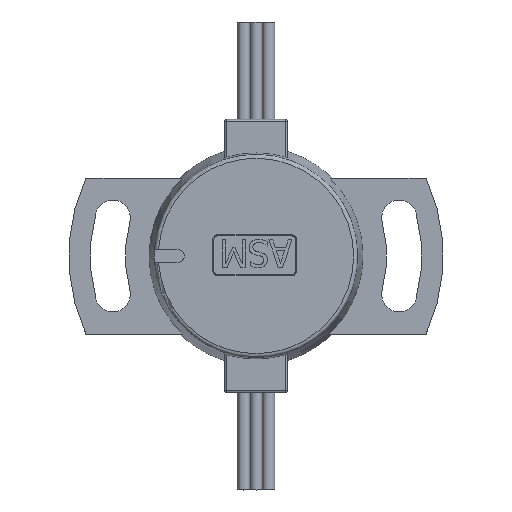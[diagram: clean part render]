
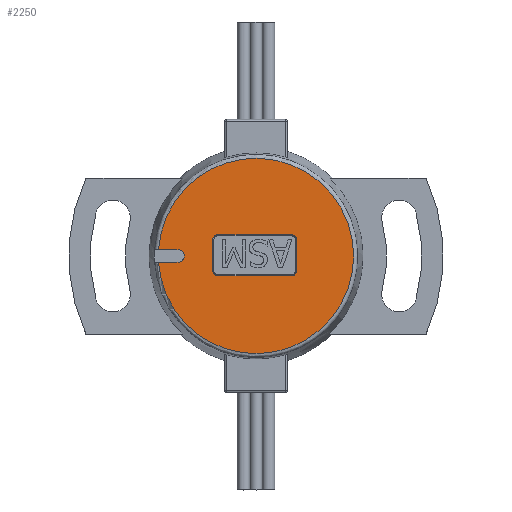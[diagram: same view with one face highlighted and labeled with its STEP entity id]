
A CAD part, top view. The second image highlights one B-rep face of the part: STEP entity #2250.
In plain terms, the highlighted planar face has unit normal (0, 0, 1).
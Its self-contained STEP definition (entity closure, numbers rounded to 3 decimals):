
#1507=CARTESIAN_POINT('',(4.559,2.722,6.));
#1508=VERTEX_POINT('',#1507);
#1515=CARTESIAN_POINT('',(-4.895,2.722,6.));
#1516=VERTEX_POINT('',#1515);
#1517=CARTESIAN_POINT('',(-4.895,2.722,6.));
#1518=DIRECTION('',(1.0,0.0,0.0));
#1519=VECTOR('',#1518,9.453);
#1520=LINE('',#1517,#1519);
#1521=EDGE_CURVE('',#1516,#1508,#1520,.T.);
#1547=CARTESIAN_POINT('',(-5.531,2.086,6.));
#1548=VERTEX_POINT('',#1547);
#1549=CARTESIAN_POINT('',(-4.895,2.086,6.));
#1550=DIRECTION('',(0.0,0.0,-1.0));
#1551=DIRECTION('',(0.,-1.0,0.0));
#1552=AXIS2_PLACEMENT_3D('',#1549,#1550,#1551);
#1553=CIRCLE('',#1552,0.636);
#1554=EDGE_CURVE('',#1548,#1516,#1553,.T.);
#1579=CARTESIAN_POINT('',(-5.531,-1.892,6.));
#1580=VERTEX_POINT('',#1579);
#1581=CARTESIAN_POINT('',(-5.531,-1.892,6.));
#1582=DIRECTION('',(0.0,1.0,0.0));
#1583=VECTOR('',#1582,3.978);
#1584=LINE('',#1581,#1583);
#1585=EDGE_CURVE('',#1580,#1548,#1584,.T.);
#1611=CARTESIAN_POINT('',(-4.895,-2.528,6.));
#1612=VERTEX_POINT('',#1611);
#1613=CARTESIAN_POINT('',(-4.895,-1.892,6.));
#1614=DIRECTION('',(0.0,0.0,-1.0));
#1615=DIRECTION('',(1.0,0.,0.0));
#1616=AXIS2_PLACEMENT_3D('',#1613,#1614,#1615);
#1617=CIRCLE('',#1616,0.636);
#1618=EDGE_CURVE('',#1612,#1580,#1617,.T.);
#1643=CARTESIAN_POINT('',(4.559,-2.528,6.));
#1644=VERTEX_POINT('',#1643);
#1645=CARTESIAN_POINT('',(4.559,-2.528,6.));
#1646=DIRECTION('',(-1.0,0.0,0.0));
#1647=VECTOR('',#1646,9.453);
#1648=LINE('',#1645,#1647);
#1649=EDGE_CURVE('',#1644,#1612,#1648,.T.);
#1675=CARTESIAN_POINT('',(5.194,-1.892,6.));
#1676=VERTEX_POINT('',#1675);
#1677=CARTESIAN_POINT('',(4.559,-1.892,6.));
#1678=DIRECTION('',(0.0,0.0,-1.0));
#1679=DIRECTION('',(0.,1.0,0.0));
#1680=AXIS2_PLACEMENT_3D('',#1677,#1678,#1679);
#1681=CIRCLE('',#1680,0.636);
#1682=EDGE_CURVE('',#1676,#1644,#1681,.T.);
#1707=CARTESIAN_POINT('',(5.194,2.086,6.));
#1708=VERTEX_POINT('',#1707);
#1709=CARTESIAN_POINT('',(5.194,2.086,6.));
#1710=DIRECTION('',(0.0,-1.0,0.0));
#1711=VECTOR('',#1710,3.978);
#1712=LINE('',#1709,#1711);
#1713=EDGE_CURVE('',#1708,#1676,#1712,.T.);
#1737=CARTESIAN_POINT('',(4.559,2.086,6.));
#1738=DIRECTION('',(0.0,0.0,-1.0));
#1739=DIRECTION('',(-1.0,0.,0.0));
#1740=AXIS2_PLACEMENT_3D('',#1737,#1738,#1739);
#1741=CIRCLE('',#1740,0.636);
#1742=EDGE_CURVE('',#1508,#1708,#1741,.T.);
#2199=CARTESIAN_POINT('',(0.,0.,6.));
#2200=DIRECTION('',(0.0,0.0,1.0));
#2201=DIRECTION('',(1.0,0.0,0.0));
#2202=AXIS2_PLACEMENT_3D('',#2199,#2200,#2201);
#2203=PLANE('',#2202);
#2204=CARTESIAN_POINT('',(-12.497,0.8,6.));
#2205=VERTEX_POINT('',#2204);
#2206=CARTESIAN_POINT('',(-12.497,-0.8,6.));
#2207=VERTEX_POINT('',#2206);
#2208=CARTESIAN_POINT('',(0.,0.,6.));
#2209=DIRECTION('',(0.0,0.0,-1.0));
#2210=DIRECTION('',(1.0,0.0,0.0));
#2211=AXIS2_PLACEMENT_3D('',#2208,#2209,#2210);
#2212=CIRCLE('',#2211,12.522);
#2213=EDGE_CURVE('',#2205,#2207,#2212,.T.);
#2214=ORIENTED_EDGE('',*,*,#2213,.F.);
#2215=CARTESIAN_POINT('',(-10.,0.8,6.));
#2216=VERTEX_POINT('',#2215);
#2217=CARTESIAN_POINT('',(-12.497,0.8,6.));
#2218=DIRECTION('',(1.0,0.0,0.0));
#2219=VECTOR('',#2218,2.497);
#2220=LINE('',#2217,#2219);
#2221=EDGE_CURVE('',#2205,#2216,#2220,.T.);
#2222=ORIENTED_EDGE('',*,*,#2221,.T.);
#2223=CARTESIAN_POINT('',(-10.,-0.8,6.));
#2224=VERTEX_POINT('',#2223);
#2225=CARTESIAN_POINT('',(-10.,0.,6.));
#2226=DIRECTION('',(0.0,0.0,-1.0));
#2227=DIRECTION('',(0.0,-1.0,0.0));
#2228=AXIS2_PLACEMENT_3D('',#2225,#2226,#2227);
#2229=CIRCLE('',#2228,0.8);
#2230=EDGE_CURVE('',#2216,#2224,#2229,.T.);
#2231=ORIENTED_EDGE('',*,*,#2230,.T.);
#2232=CARTESIAN_POINT('',(-10.,-0.8,6.));
#2233=DIRECTION('',(-1.0,0.0,0.0));
#2234=VECTOR('',#2233,2.497);
#2235=LINE('',#2232,#2234);
#2236=EDGE_CURVE('',#2224,#2207,#2235,.T.);
#2237=ORIENTED_EDGE('',*,*,#2236,.T.);
#2238=EDGE_LOOP('',(#2214,#2222,#2231,#2237));
#2239=FACE_OUTER_BOUND('',#2238,.T.);
#2240=ORIENTED_EDGE('',*,*,#1521,.T.);
#2241=ORIENTED_EDGE('',*,*,#1742,.T.);
#2242=ORIENTED_EDGE('',*,*,#1713,.T.);
#2243=ORIENTED_EDGE('',*,*,#1682,.T.);
#2244=ORIENTED_EDGE('',*,*,#1649,.T.);
#2245=ORIENTED_EDGE('',*,*,#1618,.T.);
#2246=ORIENTED_EDGE('',*,*,#1585,.T.);
#2247=ORIENTED_EDGE('',*,*,#1554,.T.);
#2248=EDGE_LOOP('',(#2240,#2241,#2242,#2243,#2244,#2245,#2246,#2247));
#2249=FACE_BOUND('',#2248,.T.);
#2250=ADVANCED_FACE('',(#2239,#2249),#2203,.T.);
